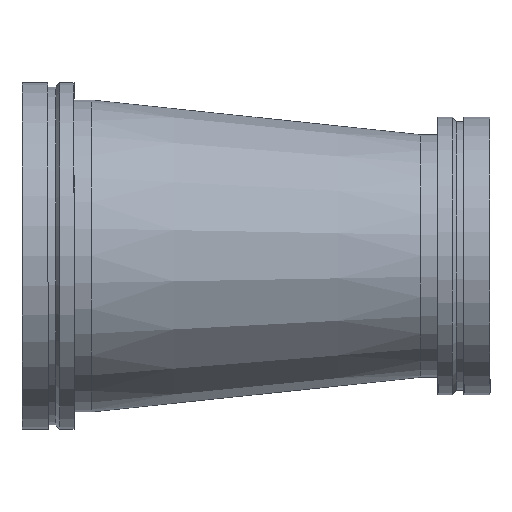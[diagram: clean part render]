
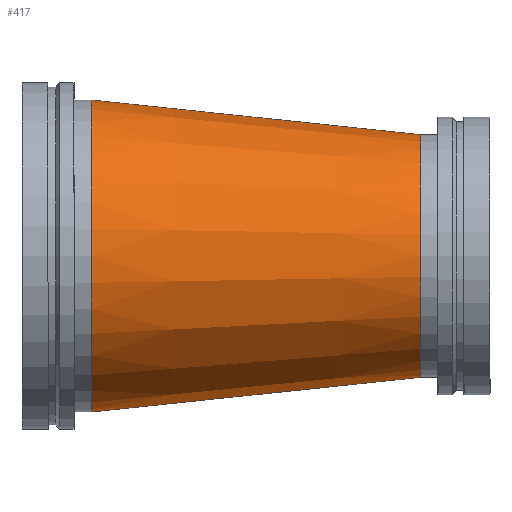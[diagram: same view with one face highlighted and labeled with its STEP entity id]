
A CAD part, top view. The second image highlights one B-rep face of the part: STEP entity #417.
In plain terms, the highlighted conical face has half-angle 6.009 degrees and reference radius 203.2 mm.
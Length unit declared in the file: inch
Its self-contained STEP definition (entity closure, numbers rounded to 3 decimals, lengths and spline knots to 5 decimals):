
#46=CONICAL_SURFACE('',#475,8.,0.105);
#54=LINE('',#739,#68);
#68=VECTOR('',#587,8.);
#101=FACE_OUTER_BOUND('',#124,.T.);
#124=EDGE_LOOP('',(#315,#316,#317,#318,#319,#320));
#155=CIRCLE('',#473,9.);
#156=CIRCLE('',#474,9.);
#157=CIRCLE('',#476,7.);
#158=CIRCLE('',#477,7.);
#195=VERTEX_POINT('',#729);
#196=VERTEX_POINT('',#730);
#197=VERTEX_POINT('',#735);
#198=VERTEX_POINT('',#736);
#239=EDGE_CURVE('',#195,#196,#155,.T.);
#240=EDGE_CURVE('',#196,#195,#156,.T.);
#242=EDGE_CURVE('',#197,#198,#157,.T.);
#243=EDGE_CURVE('',#198,#197,#158,.T.);
#244=EDGE_CURVE('',#198,#196,#54,.T.);
#315=ORIENTED_EDGE('',*,*,#242,.F.);
#316=ORIENTED_EDGE('',*,*,#243,.F.);
#317=ORIENTED_EDGE('',*,*,#244,.T.);
#318=ORIENTED_EDGE('',*,*,#240,.T.);
#319=ORIENTED_EDGE('',*,*,#239,.T.);
#320=ORIENTED_EDGE('',*,*,#244,.F.);
#417=ADVANCED_FACE('',(#101),#46,.T.);
#473=AXIS2_PLACEMENT_3D('',#731,#576,#577);
#474=AXIS2_PLACEMENT_3D('',#732,#578,#579);
#475=AXIS2_PLACEMENT_3D('',#734,#581,#582);
#476=AXIS2_PLACEMENT_3D('',#737,#583,#584);
#477=AXIS2_PLACEMENT_3D('',#738,#585,#586);
#576=DIRECTION('center_axis',(1.,0.,0.));
#577=DIRECTION('ref_axis',(0.,0.,-1.));
#578=DIRECTION('center_axis',(1.,0.,0.));
#579=DIRECTION('ref_axis',(0.,0.,-1.));
#581=DIRECTION('center_axis',(-1.,0.,0.));
#582=DIRECTION('ref_axis',(0.,1.,0.));
#583=DIRECTION('center_axis',(1.,0.,0.));
#584=DIRECTION('ref_axis',(0.,0.,-1.));
#585=DIRECTION('center_axis',(1.,0.,0.));
#586=DIRECTION('ref_axis',(0.,0.,-1.));
#587=DIRECTION('',(-0.995,-0.105,0.));
#729=CARTESIAN_POINT('',(4.,9.,0.));
#730=CARTESIAN_POINT('',(4.,-9.,0.));
#731=CARTESIAN_POINT('Origin',(4.,0.,0.));
#732=CARTESIAN_POINT('Origin',(4.,0.,0.));
#734=CARTESIAN_POINT('Origin',(13.5,0.,0.));
#735=CARTESIAN_POINT('',(23.,7.,0.));
#736=CARTESIAN_POINT('',(23.,-7.,0.));
#737=CARTESIAN_POINT('Origin',(23.,0.,0.));
#738=CARTESIAN_POINT('Origin',(23.,0.,0.));
#739=CARTESIAN_POINT('',(13.5,-8.,0.));
